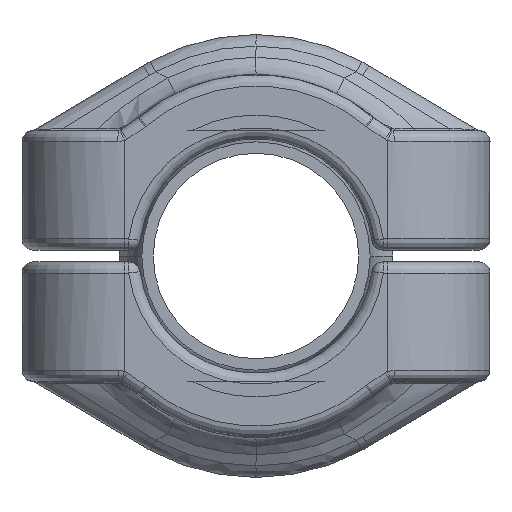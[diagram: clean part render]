
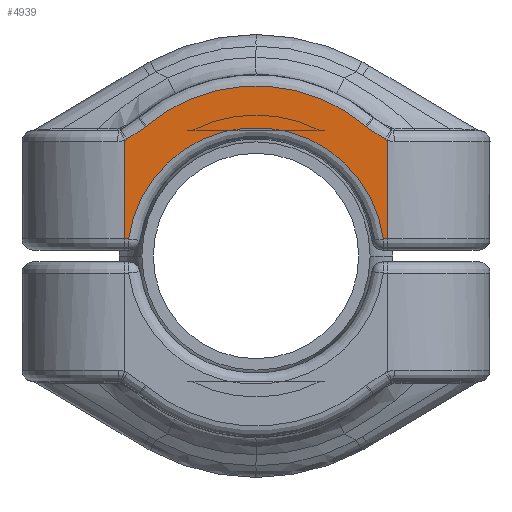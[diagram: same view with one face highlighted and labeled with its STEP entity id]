
A CAD part, left-side view. The second image highlights one B-rep face of the part: STEP entity #4939.
In plain terms, the highlighted planar face has unit normal (-1, 0, 0) as drawn and (1, 0, 0) by its records, which use the part's own axes.
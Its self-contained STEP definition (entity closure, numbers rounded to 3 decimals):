
#1433=DIRECTION('',(0.,0.,1.));
#1434=VECTOR('',#1433,8.615);
#1435=CARTESIAN_POINT('',(29.5,11.5,1.5));
#1436=LINE('',#1435,#1434);
#1473=DIRECTION('',(0.,-1.,0.));
#1474=VECTOR('',#1473,0.35);
#1475=CARTESIAN_POINT('',(29.5,11.5,1.5));
#1476=LINE('',#1475,#1474);
#1480=CARTESIAN_POINT('',(29.5,0.,0.));
#1481=DIRECTION('',(1.,0.,0.));
#1482=DIRECTION('',(0.,0.991,0.133));
#1483=AXIS2_PLACEMENT_3D('',#1480,#1481,#1482);
#1488=DIRECTION('',(0.,-1.,0.));
#1489=VECTOR('',#1488,0.35);
#1490=CARTESIAN_POINT('',(29.5,-11.15,1.5));
#1491=LINE('',#1490,#1489);
#1495=CARTESIAN_POINT('',(29.5,-12.035,11.3));
#1496=DIRECTION('',(1.,0.,0.));
#1497=DIRECTION('',(0.,0.412,-0.911));
#1498=AXIS2_PLACEMENT_3D('',#1495,#1496,#1497);
#1503=DIRECTION('',(0.,0.827,0.563));
#1504=VECTOR('',#1503,1.916);
#1505=CARTESIAN_POINT('',(29.5,-11.304,10.225));
#1506=LINE('',#1505,#1504);
#1510=CARTESIAN_POINT('',(29.5,-10.451,12.378));
#1511=DIRECTION('',(1.,0.,0.));
#1512=DIRECTION('',(0.,0.563,-0.827));
#1513=AXIS2_PLACEMENT_3D('',#1510,#1511,#1512);
#1518=CARTESIAN_POINT('',(29.5,0.,0.));
#1519=DIRECTION('',(-1.,0.,0.));
#1520=DIRECTION('',(0.,-0.645,0.764));
#1521=AXIS2_PLACEMENT_3D('',#1518,#1519,#1520);
#1526=CARTESIAN_POINT('',(29.5,10.451,12.378));
#1527=DIRECTION('',(1.,0.,0.));
#1528=DIRECTION('',(0.,-0.645,-0.764));
#1529=AXIS2_PLACEMENT_3D('',#1526,#1527,#1528);
#1534=DIRECTION('',(0.,0.827,-0.563));
#1535=VECTOR('',#1534,1.916);
#1536=CARTESIAN_POINT('',(29.5,9.72,11.303));
#1537=LINE('',#1536,#1535);
#1541=CARTESIAN_POINT('',(29.5,12.035,11.3));
#1542=DIRECTION('',(1.,0.,0.));
#1543=DIRECTION('',(0.,-0.563,-0.827));
#1544=AXIS2_PLACEMENT_3D('',#1541,#1542,#1543);
#2633=CARTESIAN_POINT('',(29.5,-11.5,10.115));
#2638=DIRECTION('',(0.,0.,-1.));
#2639=VECTOR('',#2638,8.615);
#2640=CARTESIAN_POINT('',(29.5,-11.5,10.115));
#2641=LINE('',#2640,#2639);
#4256=VERTEX_POINT('',#2633);
#4259=CARTESIAN_POINT('',(29.5,-11.304,10.225));
#4260=VERTEX_POINT('',#4259);
#4263=CARTESIAN_POINT('',(29.5,-9.72,11.303));
#4264=VERTEX_POINT('',#4263);
#4267=CARTESIAN_POINT('',(29.5,-9.613,11.384));
#4268=VERTEX_POINT('',#4267);
#4271=CARTESIAN_POINT('',(29.5,9.613,11.384));
#4272=VERTEX_POINT('',#4271);
#4275=CARTESIAN_POINT('',(29.5,9.72,11.303));
#4276=VERTEX_POINT('',#4275);
#4279=CARTESIAN_POINT('',(29.5,11.304,10.225));
#4280=VERTEX_POINT('',#4279);
#4283=CARTESIAN_POINT('',(29.5,11.5,10.115));
#4284=VERTEX_POINT('',#4283);
#4287=CARTESIAN_POINT('',(29.5,11.5,1.5));
#4288=CARTESIAN_POINT('',(29.5,11.15,1.5));
#4289=VERTEX_POINT('',#4287);
#4290=VERTEX_POINT('',#4288);
#4329=CARTESIAN_POINT('',(29.5,-11.5,1.5));
#4330=VERTEX_POINT('',#4329);
#4333=CARTESIAN_POINT('',(29.5,-11.15,1.5));
#4334=VERTEX_POINT('',#4333);
#4910=CARTESIAN_POINT('',(29.5,-15.9,0.));
#4911=DIRECTION('',(1.,0.,0.));
#4912=DIRECTION('',(0.,0.,-1.));
#4913=AXIS2_PLACEMENT_3D('',#4910,#4911,#4912);
#4914=PLANE('',#4913);
#4915=ORIENTED_EDGE('',*,*,#4901,.T.);
#4917=ORIENTED_EDGE('',*,*,#4916,.T.);
#4919=ORIENTED_EDGE('',*,*,#4918,.T.);
#4921=ORIENTED_EDGE('',*,*,#4920,.F.);
#4923=ORIENTED_EDGE('',*,*,#4922,.T.);
#4925=ORIENTED_EDGE('',*,*,#4924,.T.);
#4927=ORIENTED_EDGE('',*,*,#4926,.T.);
#4929=ORIENTED_EDGE('',*,*,#4928,.T.);
#4931=ORIENTED_EDGE('',*,*,#4930,.T.);
#4933=ORIENTED_EDGE('',*,*,#4932,.T.);
#4935=ORIENTED_EDGE('',*,*,#4934,.T.);
#4936=ORIENTED_EDGE('',*,*,#4874,.F.);
#4937=EDGE_LOOP('',(#4915,#4917,#4919,#4921,#4923,#4925,#4927,#4929,#4931,#4933,
#4935,#4936));
#4938=FACE_OUTER_BOUND('',#4937,.F.);
#1484=CIRCLE('',#1483,11.25);
#1499=CIRCLE('',#1498,1.3);
#1514=CIRCLE('',#1513,1.3);
#1522=CIRCLE('',#1521,14.9);
#1530=CIRCLE('',#1529,1.3);
#1545=CIRCLE('',#1544,1.3);
#4874=EDGE_CURVE('',#4289,#4284,#1436,.T.);
#4901=EDGE_CURVE('',#4289,#4290,#1476,.T.);
#4916=EDGE_CURVE('',#4290,#4334,#1484,.T.);
#4918=EDGE_CURVE('',#4334,#4330,#1491,.T.);
#4920=EDGE_CURVE('',#4256,#4330,#2641,.T.);
#4922=EDGE_CURVE('',#4256,#4260,#1499,.T.);
#4924=EDGE_CURVE('',#4260,#4264,#1506,.T.);
#4926=EDGE_CURVE('',#4264,#4268,#1514,.T.);
#4928=EDGE_CURVE('',#4268,#4272,#1522,.T.);
#4930=EDGE_CURVE('',#4272,#4276,#1530,.T.);
#4932=EDGE_CURVE('',#4276,#4280,#1537,.T.);
#4934=EDGE_CURVE('',#4280,#4284,#1545,.T.);
#4939=ADVANCED_FACE('',(#4938),#4914,.T.);
